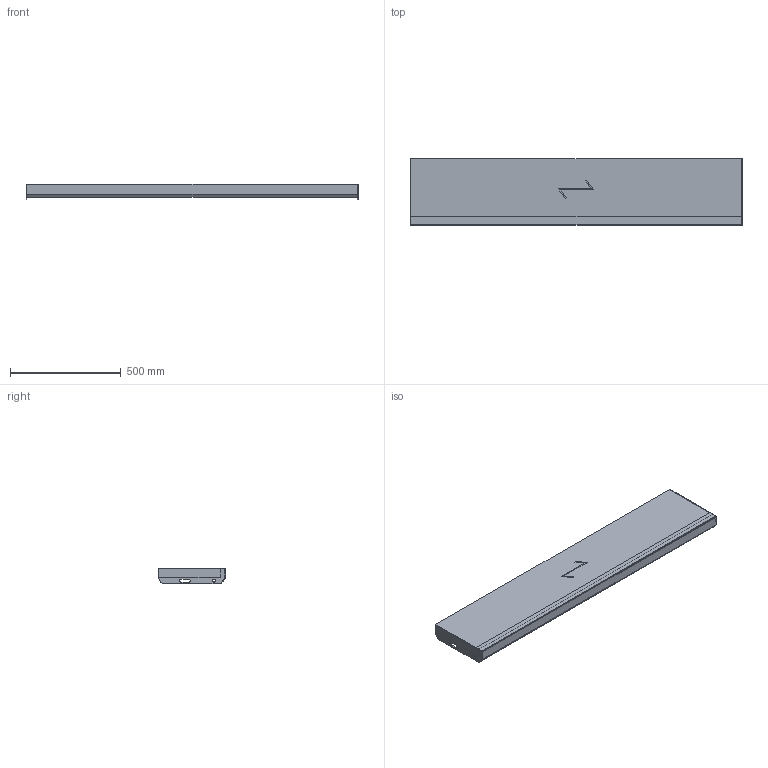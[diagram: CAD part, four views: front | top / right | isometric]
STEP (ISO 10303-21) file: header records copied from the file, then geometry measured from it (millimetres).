
FILE_DESCRIPTION (( 'STEP AP203' ), '1' );
FILE_NAME ('StegTH6-S-nya_steget-1500x300.STEP', '2020-03-04T07:47:07', ( '' ), ( '' ), 'SwSTEP 2.0', 'SolidWorks 2019', '' );
FILE_SCHEMA (( 'CONFIG_CONTROL_DESIGN' ));
Length unit declared in the file: millimetre
Products named in the file (5): SW0000039258; SW0000039599; StegTH6-S-nya_steget-1500x300; SW0000038703; SW0000039012
Assembly tree (5 placements, depth 3):
  StegTH6-S-nya_steget-1500x300
    SW0000039599
      SW0000039012
      SW0000039258
      SW0000038703  x2
Bounding box: 1500 x 300 x 72 mm (x, y, z)
Volume: 16965232.8 mm3; surface area: 1353281.2 mm2
Topology: 4 solids, 4 shells, 67 faces, 158 edges, 100 vertices
Faces by surface type: plane 51, cylinder 16
Entity records: 2002 total; most frequent: DIRECTION 261, CARTESIAN_POINT 254, ORIENTED_EDGE 238, EDGE_CURVE 119, VECTOR 99, LINE 99, AXIS2_PLACEMENT_3D 81, VERTEX_POINT 74
